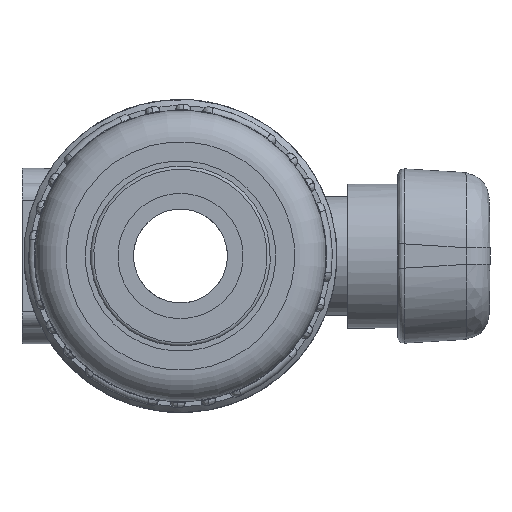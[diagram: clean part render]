
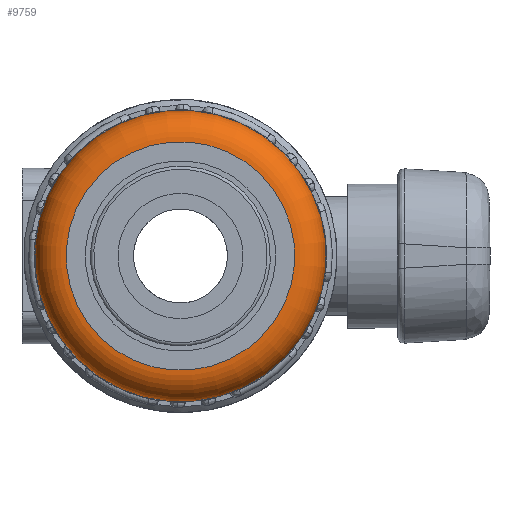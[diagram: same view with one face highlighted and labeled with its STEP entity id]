
A CAD part, front view. The second image highlights one B-rep face of the part: STEP entity #9759.
In plain terms, the highlighted toroidal (fillet/blend) face has major radius 18.25 mm and minor radius 5 mm.
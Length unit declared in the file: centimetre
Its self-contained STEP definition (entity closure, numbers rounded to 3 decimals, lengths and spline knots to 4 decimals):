
#1908=TOROIDAL_SURFACE('',#10441,1.825,0.5);
#1931=FACE_BOUND('',#2771,.T.);
#2190=FACE_OUTER_BOUND('',#2770,.T.);
#2770=EDGE_LOOP('',(#6931));
#2771=EDGE_LOOP('',(#6932));
#3365=CIRCLE('',#10439,1.825);
#3367=CIRCLE('',#10442,2.325);
#3983=VERTEX_POINT('',#36794);
#3985=VERTEX_POINT('',#36799);
#5086=EDGE_CURVE('',#3983,#3983,#3365,.T.);
#5088=EDGE_CURVE('',#3985,#3985,#3367,.T.);
#6931=ORIENTED_EDGE('',*,*,#5088,.F.);
#6932=ORIENTED_EDGE('',*,*,#5086,.T.);
#9759=ADVANCED_FACE('',(#2190,#1931),#1908,.T.);
#10439=AXIS2_PLACEMENT_3D('',#36795,#11860,#11861);
#10441=AXIS2_PLACEMENT_3D('',#36798,#11864,#11865);
#10442=AXIS2_PLACEMENT_3D('',#36800,#11866,#11867);
#11860=DIRECTION('center_axis',(0.,1.,0.));
#11861=DIRECTION('ref_axis',(-0.413,0.,-0.911));
#11864=DIRECTION('center_axis',(0.,1.,0.));
#11865=DIRECTION('ref_axis',(0.911,0.,-0.413));
#11866=DIRECTION('center_axis',(0.,1.,0.));
#11867=DIRECTION('ref_axis',(-0.413,0.,-0.911));
#36794=CARTESIAN_POINT('',(0.7538,-3.09,1.6621));
#36795=CARTESIAN_POINT('Origin',(0.,-3.09,0.));
#36798=CARTESIAN_POINT('Origin',(0.,-2.59,0.));
#36799=CARTESIAN_POINT('',(0.9603,-2.59,2.1174));
#36800=CARTESIAN_POINT('Origin',(0.,-2.59,0.));
